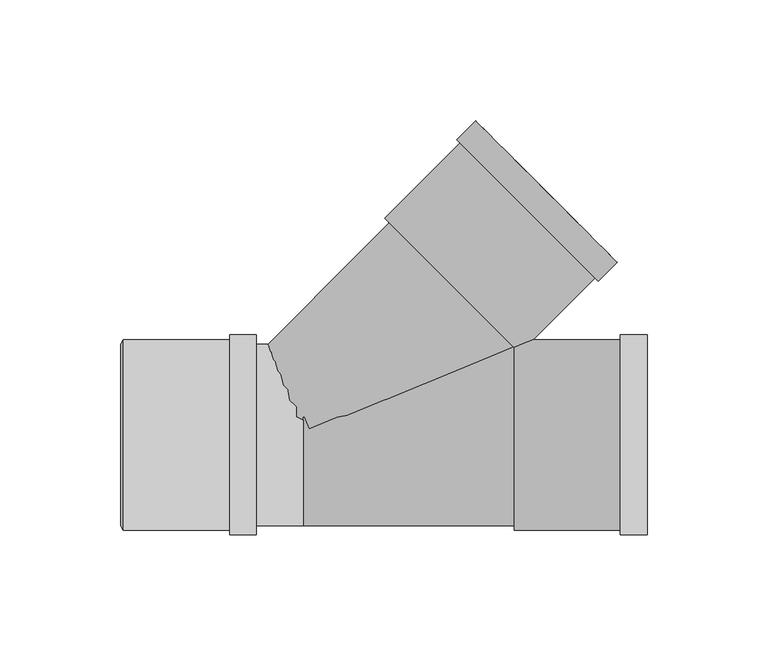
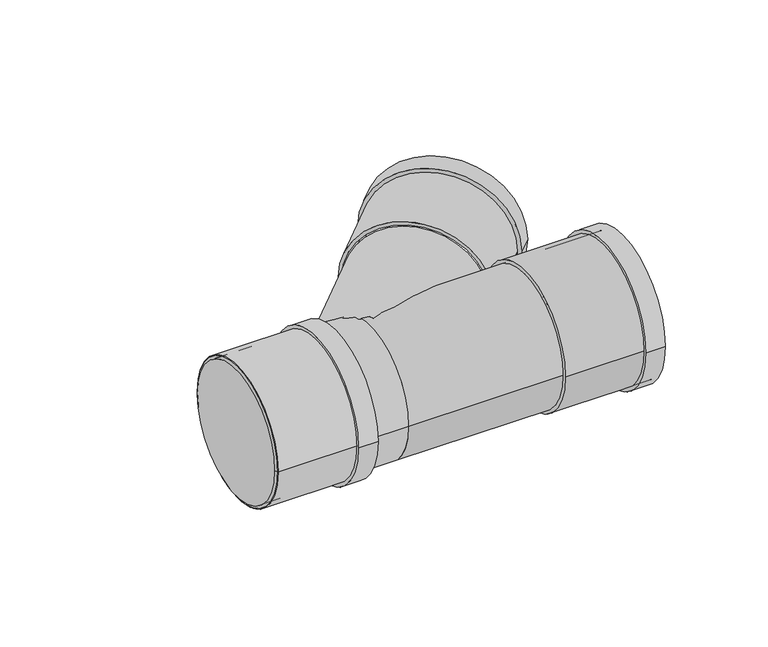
"""IFC4 building model written with IfcOpenShell, lengths in millimetres: pipe fitting geometry, Superdrain HTEA Branch : Superdrain HTEA Branch."""

import ifcopenshell
import ifcopenshell.guid

model = None  # the IFC model being written
_history = None  # IfcOwnerHistory: only IFC2X3 demands one
_inside = {}  # id of a spatial element -> (the spatial element, [elements in it])
_under = {}  # id of a project, library or spatial element -> (it, [spatial elements below it])
_declared = {}  # id of a project -> (the project, [libraries it declares])
_typed = {}  # id of a type object -> (the type object, [elements of that type])
_made_of = {}  # id of a material, layer set ... -> (it, [elements and type objects made of it])


def new_model(schema):
    """Start an empty IFC model of exactly this schema.

    Asked for "IFC4X3", IfcOpenShell would pick the latest addendum, in which some entities
    have other attributes; the version numbers below select the first issue.
    IFC2X3 requires an IfcOwnerHistory on every rooted entity: one is made here for all.
    """
    global model, _history
    if schema == "IFC4X3":
        model = ifcopenshell.file(schema_version=(4, 3, 0, 0))
    else:
        model = ifcopenshell.file(schema=schema)
    _inside.clear()
    _under.clear()
    _declared.clear()
    _typed.clear()
    _made_of.clear()
    _history = None
    if model.schema == "IFC2X3":
        org = make("IfcOrganization", Name="unknown")
        user = make(
            "IfcPersonAndOrganization",
            ThePerson=make("IfcPerson", FamilyName="unknown"),
            TheOrganization=org,
        )
        app = make(
            "IfcApplication",
            ApplicationDeveloper=org,
            Version="unknown",
            ApplicationFullName="unknown",
            ApplicationIdentifier="unknown",
        )
        _history = make(
            "IfcOwnerHistory",
            OwningUser=user,
            OwningApplication=app,
            ChangeAction="ADDED",
            CreationDate=0,
        )
    return model


def make(cls, **values):
    """One entity of the class cls with the attributes given. An attribute that is None is left unset."""
    return model.create_entity(
        cls, **{name: value for name, value in values.items() if value is not None}
    )


def rooted(cls, **values):
    """An entity with a GlobalId (a new one), such as an element, a storey or a relation."""
    return make(cls, GlobalId=ifcopenshell.guid.new(), OwnerHistory=_history, **values)


def si_unit(unit_type, name, prefix=None):
    """IfcSIUnit, for example si_unit("LENGTHUNIT", "METRE", prefix="MILLI")."""
    return make("IfcSIUnit", UnitType=unit_type, Prefix=prefix, Name=name)


def assignment(units):
    """IfcUnitAssignment: the units of a project."""
    return None if units is None else make("IfcUnitAssignment", Units=units)


def point(xyz):
    """IfcCartesianPoint."""
    return None if xyz is None else make("IfcCartesianPoint", Coordinates=xyz)


def direction(xyz):
    """IfcDirection."""
    return None if xyz is None else make("IfcDirection", DirectionRatios=xyz)


def frame(location, z_axis=None, x_axis=None):
    """IfcAxis2Placement3D, a coordinate frame: its origin and axes. An axis left out is left unset."""
    return make(
        "IfcAxis2Placement3D",
        Location=point(location),
        Axis=direction(z_axis),
        RefDirection=direction(x_axis),
    )


def frame_2d(location, x_axis=None):
    """IfcAxis2Placement2D, a coordinate frame in the plane: its origin and x axis."""
    return make(
        "IfcAxis2Placement2D", Location=point(location), RefDirection=direction(x_axis)
    )


def origin():
    """The frame at (0, 0, 0) with its axes left unset."""
    return frame((0.0, 0.0, 0.0))


def origin_2d():
    """The frame at (0, 0) in the plane with its x axis left unset."""
    return frame_2d((0.0, 0.0))


def place(relative_to, where):
    """IfcLocalPlacement: puts the frame where relative to a parent placement (None: the world)."""
    return make(
        "IfcLocalPlacement", PlacementRelTo=relative_to, RelativePlacement=where
    )


def context(
    kind, dimensions, precision=None, world=None, true_north=None, identifier=None
):
    """IfcGeometricRepresentationContext, for example the 3D "Model" context."""
    return make(
        "IfcGeometricRepresentationContext",
        ContextIdentifier=identifier,
        ContextType=kind,
        CoordinateSpaceDimension=dimensions,
        Precision=precision,
        WorldCoordinateSystem=world,
        TrueNorth=true_north,
    )


def project(units=None, contexts=None):
    """IfcProject with its units and contexts."""
    return rooted(
        "IfcProject",
        Name="project",
        RepresentationContexts=contexts,
        UnitsInContext=assignment(units),
    )


def spatial(cls, under=None, at=None, **own):
    """A site, building, storey or space (cls), placed at a placement, below another one or the project."""
    s = rooted(cls, ObjectPlacement=at, **own)
    if under is not None:
        _under.setdefault(under.id(), (under, []))[1].append(s)
    return s


def polyline(points):
    """IfcPolyline through the points."""
    return make("IfcPolyline", Points=[point(p) for p in points])


def circle_curve(where, radius):
    """IfcCircle in the frame where."""
    return make("IfcCircle", Position=where, Radius=radius)


def trimmed(basis, trim1, trim2, sense, master):
    """IfcTrimmedCurve: the piece of a basis curve between two trims."""
    return make(
        "IfcTrimmedCurve",
        BasisCurve=basis,
        Trim1=trim1,
        Trim2=trim2,
        SenseAgreement=sense,
        MasterRepresentation=master,
    )


def segment(curve, same_sense, transition):
    """IfcCompositeCurveSegment."""
    return make(
        "IfcCompositeCurveSegment",
        Transition=transition,
        SameSense=same_sense,
        ParentCurve=curve,
    )


def composite_curve(segments, self_intersect=None):
    """IfcCompositeCurve: segments joined end to end."""
    return make("IfcCompositeCurve", Segments=segments, SelfIntersect=self_intersect)


def outline(outer, holes=None, kind="AREA"):
    """IfcArbitraryClosedProfileDef: a profile drawn as a closed curve; with holes, ...WithVoids."""
    if holes is None:
        return make("IfcArbitraryClosedProfileDef", ProfileType=kind, OuterCurve=outer)
    return make(
        "IfcArbitraryProfileDefWithVoids",
        ProfileType=kind,
        OuterCurve=outer,
        InnerCurves=holes,
    )


def extrude(swept, where, along, depth):
    """IfcExtrudedAreaSolid: the profile swept, set in the frame where, extruded along a direction by depth."""
    return make(
        "IfcExtrudedAreaSolid",
        SweptArea=swept,
        Position=where,
        ExtrudedDirection=direction(along),
        Depth=depth,
    )


def shape(context_of_items, identifier, shape_type, items):
    """IfcShapeRepresentation: the items that make up one representation, for example the "Body"."""
    return make(
        "IfcShapeRepresentation",
        ContextOfItems=context_of_items,
        RepresentationIdentifier=identifier,
        RepresentationType=shape_type,
        Items=items,
    )


def source(mapping_origin, context_of_items, identifier, shape_type, items):
    """IfcRepresentationMap: a shape defined once, which mapped items show again and again."""
    return make(
        "IfcRepresentationMap",
        MappingOrigin=mapping_origin,
        MappedRepresentation=shape(context_of_items, identifier, shape_type, items),
    )


def transform(
    local_origin,
    x_axis=None,
    y_axis=None,
    z_axis=None,
    scale=None,
    scale2=None,
    scale3=None,
    uniform=True,
):
    """IfcCartesianTransformationOperator3D, or its non-uniform kind. x_axis, y_axis, z_axis: its Axis1, 2, 3."""
    if uniform:
        return make(
            "IfcCartesianTransformationOperator3D",
            Axis1=direction(x_axis),
            Axis2=direction(y_axis),
            LocalOrigin=point(local_origin),
            Scale=scale,
            Axis3=direction(z_axis),
        )
    return make(
        "IfcCartesianTransformationOperator3DnonUniform",
        Axis1=direction(x_axis),
        Axis2=direction(y_axis),
        LocalOrigin=point(local_origin),
        Scale=scale,
        Axis3=direction(z_axis),
        Scale2=scale2,
        Scale3=scale3,
    )


def mapped(mapping_source, mapping_target):
    """IfcMappedItem: shows the shape of a source again, moved by a transform."""
    return make(
        "IfcMappedItem", MappingSource=mapping_source, MappingTarget=mapping_target
    )


def made_of(thing, what):
    """Note that an element or type object is made of a material, layer set ...; save() writes the relation."""
    if what is not None:
        _made_of.setdefault(what.id(), (what, []))[1].append(thing)
    return thing


def element(
    cls,
    number,
    at=None,
    inside=None,
    cuts=None,
    type_object=None,
    material=None,
    context=None,
    identifier="Body",
    shape_type=None,
    held_by="IfcProductDefinitionShape",
    body=None,
    shapes=None,
    **own,
):
    """One element of the class cls, such as IfcWall. Its Tag is "e" and its number.

    at: its placement. inside: the storey or other place that contains it. cuts: it is an
    opening in that element (IfcRelVoidsElement). A single representation is given by context,
    identifier, shape_type and body (its items); several are given by shapes. held_by: the class
    of the entity that holds the representations. save() writes the other relations.
    """
    e = rooted(cls, Tag="e%d" % number, ObjectPlacement=at, **own)
    if body is not None:
        shapes = [shape(context, identifier, shape_type, body)]
    if shapes is not None:
        e.Representation = make(held_by, Representations=shapes)
    if inside is not None:
        _inside.setdefault(inside.id(), (inside, []))[1].append(e)
    if cuts is not None:
        rooted(
            "IfcRelVoidsElement", RelatingBuildingElement=cuts, RelatedOpeningElement=e
        )
    if type_object is not None:
        _typed.setdefault(type_object.id(), (type_object, []))[1].append(e)
    return made_of(e, material)


def aggregate(whole, parts):
    """IfcRelAggregates: a whole, such as a stair, and the parts it consists of."""
    return rooted("IfcRelAggregates", RelatingObject=whole, RelatedObjects=parts)


def save(model, path):
    """Write the relations noted so far, then the file.

    IfcRelAggregates (storeys below a building ...), IfcRelContainedInSpatialStructure (elements
    in a storey), IfcRelDefinesByType, IfcRelAssociatesMaterial and IfcRelDeclares: one each for
    every whole, place, type object, material and project.
    """
    for whole, parts in _under.values():
        aggregate(whole, parts)
    for where, things in _inside.values():
        rooted(
            "IfcRelContainedInSpatialStructure",
            RelatedElements=things,
            RelatingStructure=where,
        )
    for kind, things in _typed.values():
        rooted("IfcRelDefinesByType", RelatedObjects=things, RelatingType=kind)
    for what, things in _made_of.values():
        rooted("IfcRelAssociatesMaterial", RelatedObjects=things, RelatingMaterial=what)
    for by, libraries in _declared.values():
        rooted("IfcRelDeclares", RelatingContext=by, RelatedDefinitions=libraries)
    model.write(path)


def plane_surface(at):
    """IfcPlane: the flat surface through the origin of the frame at, square to its z axis."""
    return make("IfcPlane", Position=at)


def cylinder_surface(at, radius):
    """IfcCylindricalSurface: all points at the distance radius from the z axis of the frame at."""
    return make("IfcCylindricalSurface", Position=at, Radius=radius)


def revolved_surface(curve, axis_point, axis_direction):
    """IfcSurfaceOfRevolution: the curve turned about the line through axis_point along axis_direction."""
    return make(
        "IfcSurfaceOfRevolution",
        SweptCurve=make("IfcArbitraryOpenProfileDef", ProfileType="CURVE", Curve=curve),
        AxisPosition=make("IfcAxis1Placement", Location=point(axis_point), Axis=direction(axis_direction)),
    )


def advanced_brep(points, edges, surfaces, faces):
    """IfcAdvancedBrep: a solid bounded by faces that lie on surfaces and meet in shared edges.

    An edge is (start, end): straight between two places in points (the first is 0);
    or (start, end, curve); or (start, end, curve, False) where it runs against its curve.
    A face is (place in surfaces, loops), or (place, loops, False) where it looks against
    its surface's normal. A loop lists edges by number (the first is 1), with a minus sign
    where the edge is run from its end to its start. The first loop is the outer one.
    """
    corners = [point(p) for p in points]
    vertices = [make("IfcVertexPoint", VertexGeometry=c) for c in corners]
    made = []
    for start, end, *more in edges:
        made.append(
            make(
                "IfcEdgeCurve",
                EdgeStart=vertices[start],
                EdgeEnd=vertices[end],
                EdgeGeometry=more[0] if more else make("IfcPolyline", Points=[corners[start], corners[end]]),
                SameSense=more[1] if len(more) > 1 else True,
            )
        )
    hull = []
    for where, loops, *sense in faces:
        bounds = []
        for j, loop in enumerate(loops):
            ring = [make("IfcOrientedEdge", EdgeElement=made[abs(k) - 1], Orientation=k > 0) for k in loop]
            bounds.append(
                make(
                    "IfcFaceOuterBound" if j == 0 else "IfcFaceBound",
                    Bound=make("IfcEdgeLoop", EdgeList=ring),
                    Orientation=True,
                )
            )
        hull.append(make("IfcAdvancedFace", Bounds=bounds, FaceSurface=surfaces[where], SameSense=sense[0] if sense else True))
    return make("IfcAdvancedBrep", Outer=make("IfcClosedShell", CfsFaces=hull))


def pipe_fitting_d4613a2e(model_context):
    return source(origin(), model_context, "Body", "SolidModel", [
        extrude(outline(composite_curve([segment(trimmed(circle_curve(origin_2d(), 39.375), [point((39.375, 0.0))], [point((-39.375, 0.0))], False, "CARTESIAN"), True, "CONTINUOUS"), segment(trimmed(circle_curve(origin_2d(), 39.375), [point((-39.375, 0.0))], [point((39.375, 0.0))], False, "CARTESIAN"), True, "CONTINUOUS")], self_intersect=False), holes=[composite_curve([segment(trimmed(circle_curve(origin_2d(), 37.5), [point((37.5, 0.0))], [point((-37.5, 0.0))], True, "CARTESIAN"), True, "CONTINUOUS"), segment(trimmed(circle_curve(origin_2d(), 37.5), [point((-37.5, 0.0))], [point((37.5, 0.0))], True, "CARTESIAN"), True, "CONTINUOUS")], self_intersect=False)]), frame((-74.3, 0.0, 0.0), z_axis=(1.0, 0.0, 0.0), x_axis=(0.0, 1.0, 0.0)), (0.0, 0.0, 1.0), 55.0),
        extrude(outline(composite_curve([segment(trimmed(circle_curve(origin_2d(), 41.34375), [point((41.34375, 0.0))], [point((-41.34375, 0.0))], False, "CARTESIAN"), True, "CONTINUOUS"), segment(trimmed(circle_curve(origin_2d(), 41.34375), [point((-41.34375, 0.0))], [point((41.34375, 0.0))], False, "CARTESIAN"), True, "CONTINUOUS")], self_intersect=False), holes=[composite_curve([segment(trimmed(circle_curve(origin_2d(), 37.5), [point((37.5, 0.0))], [point((-37.5, 0.0))], True, "CARTESIAN"), True, "CONTINUOUS"), segment(trimmed(circle_curve(origin_2d(), 37.5), [point((-37.5, 0.0))], [point((37.5, 0.0))], True, "CARTESIAN"), True, "CONTINUOUS")], self_intersect=False)]), frame((-30.3, 0.0, 0.0), z_axis=(1.0, 0.0, 0.0), x_axis=(0.0, 1.0, 0.0)), (0.0, 0.0, 1.0), 11.0),
        advanced_brep(
        [(-75.3, 37.5, 0.0), (-75.3, -37.5, 0.0), (-74.3, 39.375, 0.0), (-74.3, -39.375, 0.0)],
        [
            (0, 1, circle_curve(frame((-75.3, 0.0, 0.0), z_axis=(-1.0, 0.0, 0.0), x_axis=(0.0, 1.0, 0.0)), 37.5)),
            (1, 0, circle_curve(frame((-75.3, 0.0, 0.0), z_axis=(-1.0, 0.0, 0.0), x_axis=(0.0, -1.0, 0.0)), 37.5)),
            (2, 3, circle_curve(frame((-74.3, 0.0, 0.0), z_axis=(1.0, 0.0, 0.0), x_axis=(0.0, -1.0, 0.0)), 39.375)),
            (3, 2, circle_curve(frame((-74.3, 0.0, 0.0), z_axis=(1.0, 0.0, 0.0), x_axis=(0.0, 1.0, 0.0)), 39.375)),
            (3, 1),
            (0, 2),
        ],
        [
            plane_surface(frame((-75.3, 0.0, 0.0), z_axis=(-1.0, 0.0, 0.0), x_axis=(0.0, 0.0, -1.0))),
            plane_surface(frame((-74.3, 0.0, 0.0), z_axis=(1.0, 0.0, 0.0), x_axis=(0.0, 0.0, -1.0))),
            revolved_surface(polyline([(-75.3, 37.5, 0.0), (-74.3, 39.375, 0.0)]), (-95.3, 0.0, 0.0), (1.0, 0.0, 0.0)),
            revolved_surface(polyline([(-75.3, -37.5, 0.0), (-74.3, -39.375, 0.0)]), (-95.3, 0.0, 0.0), (1.0, 0.0, 0.0)),
        ],
        [
            (0, [[1, 2]]),
            (1, [[3, 4]]),
            (2, [[-4, 5, -1, 6]]),
            (3, [[-3, -6, -2, -5]]),
        ],
    ),
        advanced_brep(
        [(87.2, -39.375, 0.0), (87.2, 39.375, 0.0), (142.2, -39.375, 0.0), (142.2, 39.375, 0.0), (142.2, -37.5, 0.0), (142.2, 37.5, 0.0), (88.2, -37.5, 0.0), (88.2, 37.5, 0.0)],
        [
            (0, 1, circle_curve(frame((87.2, 0.0, 0.0), z_axis=(-1.0, 0.0, 0.0), x_axis=(0.0, 1.0, 0.0)), 39.375)),
            (1, 0, circle_curve(frame((87.2, 0.0, 0.0), z_axis=(-1.0, 0.0, 0.0), x_axis=(0.0, 1.0, 0.0)), 39.375)),
            (2, 3, circle_curve(frame((142.2, 0.0, 0.0), z_axis=(1.0, 0.0, 0.0), x_axis=(0.0, 1.0, 0.0)), 39.375)),
            (3, 2, circle_curve(frame((142.2, 0.0, 0.0), z_axis=(1.0, 0.0, 0.0), x_axis=(0.0, 1.0, 0.0)), 39.375)),
            (4, 5, circle_curve(frame((142.2, 0.0, 0.0), z_axis=(-1.0, 0.0, 0.0), x_axis=(0.0, 1.0, 0.0)), 37.5)),
            (5, 4, circle_curve(frame((142.2, 0.0, 0.0), z_axis=(-1.0, 0.0, 0.0), x_axis=(0.0, 1.0, 0.0)), 37.5)),
            (0, 2),
            (3, 1),
            (6, 7, circle_curve(frame((88.2, 0.0, 0.0), z_axis=(-1.0, 0.0, 0.0), x_axis=(0.0, 1.0, 0.0)), 37.5)),
            (7, 5),
            (4, 6),
            (7, 6, circle_curve(frame((88.2, 0.0, 0.0), z_axis=(-1.0, 0.0, 0.0), x_axis=(0.0, 1.0, 0.0)), 37.5)),
        ],
        [
            plane_surface(frame((87.2, 0.0, 0.0), z_axis=(-1.0, 0.0, 0.0), x_axis=(0.0, 0.0, 1.0))),
            plane_surface(frame((142.2, 0.0, 0.0), z_axis=(1.0, 0.0, 0.0), x_axis=(0.0, 0.0, 1.0))),
            cylinder_surface(frame((87.2, 0.0, 0.0), z_axis=(-1.0, 0.0, 0.0), x_axis=(0.0, 1.0, 0.0)), 39.375),
            revolved_surface(polyline([(88.2, 37.5, 0.0), (142.2, 37.5, 0.0)]), (88.2, 0.0, 0.0), (-1.0, 0.0, 0.0)),
            plane_surface(frame((88.2, 0.0, 0.0), z_axis=(1.0, 0.0, 0.0), x_axis=(0.0, 0.0, 1.0))),
        ],
        [
            (0, [[1, 2]]),
            (1, [[3, 4], [5, 6]]),
            (2, [[-1, 7, -4, 8]]),
            (2, [[-2, -8, -3, -7]]),
            (3, [[9, 10, -5, 11]]),
            (3, [[12, -11, -6, -10]]),
            (4, [[-12, -9]]),
        ],
    ),
        extrude(outline(composite_curve([segment(trimmed(circle_curve(origin_2d(), 41.34375), [point((41.34375, 0.0))], [point((-41.34375, 0.0))], False, "CARTESIAN"), True, "CONTINUOUS"), segment(trimmed(circle_curve(origin_2d(), 41.34375), [point((-41.34375, 0.0))], [point((41.34375, 0.0))], False, "CARTESIAN"), True, "CONTINUOUS")], self_intersect=False), holes=[composite_curve([segment(trimmed(circle_curve(origin_2d(), 37.5), [point((37.5, 0.0))], [point((-37.5, 0.0))], True, "CARTESIAN"), True, "CONTINUOUS"), segment(trimmed(circle_curve(origin_2d(), 37.5), [point((-37.5, 0.0))], [point((37.5, 0.0))], True, "CARTESIAN"), True, "CONTINUOUS")], self_intersect=False)]), frame((131.2, 0.0, 0.0), z_axis=(1.0, 0.0, 0.0), x_axis=(0.0, 1.0, 0.0)), (0.0, 0.0, 1.0), 11.0),
        extrude(outline(composite_curve([segment(trimmed(circle_curve(origin_2d(), 36.75), [point((0.0, 36.75))], [point((0.0, -36.75))], False, "CARTESIAN"), True, "CONTINUOUS"), segment(trimmed(circle_curve(origin_2d(), 36.75), [point((0.0, -36.75))], [point((0.0, 36.75))], False, "CARTESIAN"), True, "CONTINUOUS")], self_intersect=False)), frame((0.0, 0.0, 0.0), z_axis=(0.7071067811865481, 0.7071067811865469, 0.0), x_axis=(0.0, 0.0, 1.0)), (0.0, 0.0, 1.0), 87.2),
        extrude(outline(composite_curve([segment(trimmed(circle_curve(origin_2d(), 37.5), [point((37.5, 0.0))], [point((-37.5, 0.0))], False, "CARTESIAN"), True, "CONTINUOUS"), segment(trimmed(circle_curve(origin_2d(), 37.5), [point((-37.5, 0.0))], [point((37.5, 0.0))], False, "CARTESIAN"), True, "CONTINUOUS")], self_intersect=False)), frame((-74.3, 0.0, 0.0), z_axis=(1.0, 0.0, 0.0), x_axis=(0.0, 1.0, 0.0)), (0.0, 0.0, 1.0), 74.3),
        extrude(outline(composite_curve([segment(trimmed(circle_curve(origin_2d(), 37.5), [point((-37.5, 0.0))], [point((37.5, 0.0))], False, "CARTESIAN"), True, "CONTINUOUS"), segment(trimmed(circle_curve(origin_2d(), 37.5), [point((37.5, 0.0))], [point((-37.5, 0.0))], False, "CARTESIAN"), True, "CONTINUOUS")], self_intersect=False)), frame((0.0, 0.0, 0.0), z_axis=(1.0, 0.0, 0.0), x_axis=(0.0, 1.0, 0.0)), (0.0, 0.0, 1.0), 87.2),
        extrude(outline(composite_curve([segment(trimmed(circle_curve(origin_2d(), 41.34375), [point((0.0, 41.34375))], [point((0.0, -41.34375))], False, "CARTESIAN"), True, "CONTINUOUS"), segment(trimmed(circle_curve(origin_2d(), 41.34375), [point((0.0, -41.34375))], [point((0.0, 41.34375))], False, "CARTESIAN"), True, "CONTINUOUS")], self_intersect=False), holes=[composite_curve([segment(trimmed(circle_curve(origin_2d(), 37.5), [point((0.0, 37.5))], [point((0.0, -37.5))], True, "CARTESIAN"), True, "CONTINUOUS"), segment(trimmed(circle_curve(origin_2d(), 37.5), [point((0.0, -37.5))], [point((0.0, 37.5))], True, "CARTESIAN"), True, "CONTINUOUS")], self_intersect=False)]), frame((92.7724097, 92.7724097, 0.0), z_axis=(0.7071067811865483, 0.7071067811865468, 0.0), x_axis=(0.0, 0.0, 1.0)), (0.0, 0.0, 1.0), 11.0),
        extrude(outline(composite_curve([segment(trimmed(circle_curve(origin_2d(), 39.375), [point((0.0, 39.375))], [point((0.0, -39.375))], False, "CARTESIAN"), True, "CONTINUOUS"), segment(trimmed(circle_curve(origin_2d(), 39.375), [point((0.0, -39.375))], [point((0.0, 39.375))], False, "CARTESIAN"), True, "CONTINUOUS")], self_intersect=False), holes=[composite_curve([segment(trimmed(circle_curve(origin_2d(), 37.5), [point((0.0, 37.5))], [point((0.0, -37.5))], True, "CARTESIAN"), True, "CONTINUOUS"), segment(trimmed(circle_curve(origin_2d(), 37.5), [point((0.0, -37.5))], [point((0.0, 37.5))], True, "CARTESIAN"), True, "CONTINUOUS")], self_intersect=False)]), frame((61.6597113, 61.6597113, 0.0), z_axis=(0.7071067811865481, 0.7071067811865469, 0.0), x_axis=(0.0, 0.0, 1.0)), (0.0, 0.0, 1.0), 55.0),
    ])


if __name__ == "__main__":
    model = new_model("IFC4")
    model_context = context("Model", 3, world=origin())
    ifc_project = project(units=[si_unit("LENGTHUNIT", "METRE", prefix="MILLI")], contexts=[model_context])
    site = spatial("IfcSite", under=ifc_project)
    building = spatial("IfcBuilding", under=site)
    placement = place(None, origin())
    pipe_fitting_shape = pipe_fitting_d4613a2e(model_context)
    element("IfcPipeFitting", 1, ObjectType="Superdrain HTEA Branch : Superdrain HTEA Branch", at=placement, inside=building, context=model_context, shape_type="MappedRepresentation", body=[
        mapped(pipe_fitting_shape, transform((0.0, 0.0, 0.0), x_axis=(1.0, 0.0, 0.0), y_axis=(0.0, 1.0, 0.0), z_axis=(0.0, 0.0, 1.0))),
    ])
    save(model, "model.ifc")
